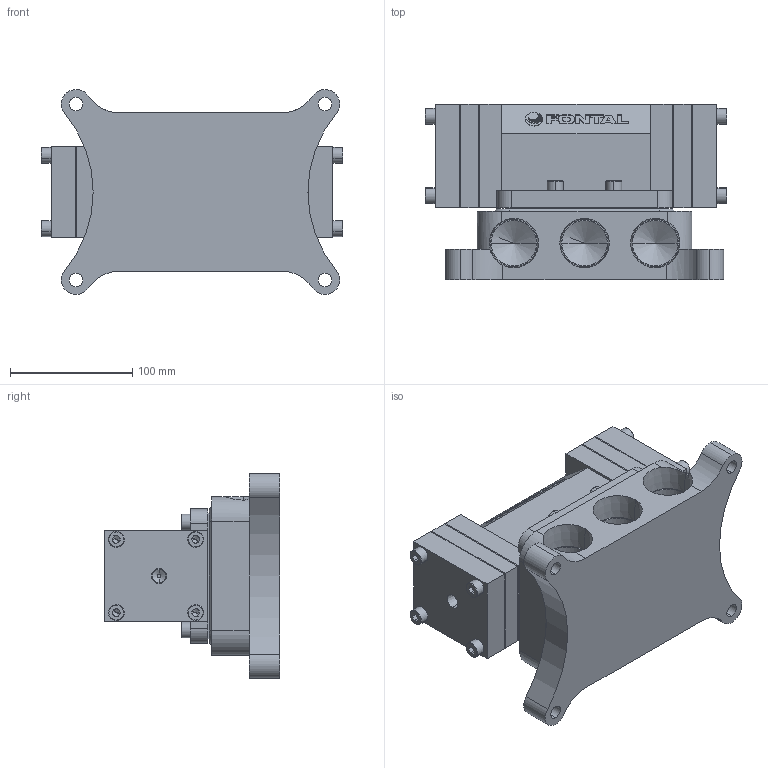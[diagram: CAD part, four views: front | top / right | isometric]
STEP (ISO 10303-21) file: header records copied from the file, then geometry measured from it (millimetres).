
FILE_DESCRIPTION (( 'STEP AP203' ), '1' );
FILE_NAME ('VMD3425-10.STEP', '2016-01-13T18:35:21', ( '' ), ( '' ), 'SwSTEP 2.0', 'SolidWorks 2014', '' );
FILE_SCHEMA (( 'CONFIG_CONTROL_DESIGN' ));
Length unit declared in the file: millimetre
Products named in the file (9): PM25底座-1-10; ISO 4762 M8; PMS2425-4; PM25-MARK-24; PMS2425-1; VMS2425-2; VMS2425-1; PMS2425-2; VMD3425-10
Assembly tree (24 placements, depth 2):
  VMD3425-10
    PMS2425-1
    PMS2425-2  x4
    ISO 4762 M8  x12
    PMS2425-4
    PM25-MARK-24
    VMS2425-1  x2
    VMS2425-2  x2
    PM25底座-1-10
Bounding box: 247 x 144 x 167.99 mm (x, y, z)
Volume: 2640698.7 mm3; surface area: 361217.7 mm2
Topology: 30 solids, 30 shells, 620 faces, 1440 edges, 881 vertices
Faces by surface type: plane 349, cylinder 139, cone 76, torus 48, bspline 8
Entity records: 9889 total; most frequent: CARTESIAN_POINT 1661, DIRECTION 1456, ORIENTED_EDGE 1380, EDGE_CURVE 690, AXIS2_PLACEMENT_3D 503, VERTEX_POINT 452, LINE 450, VECTOR 450
